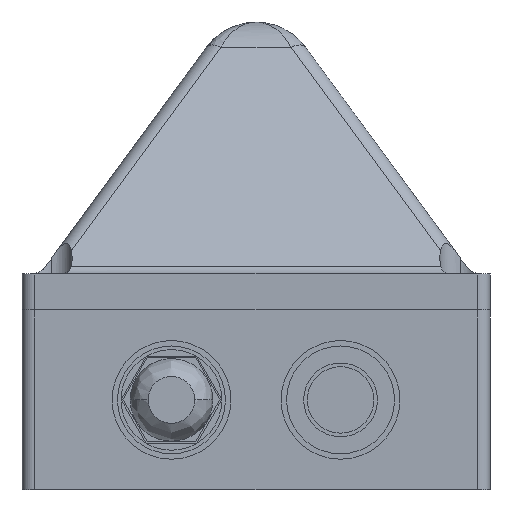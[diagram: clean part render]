
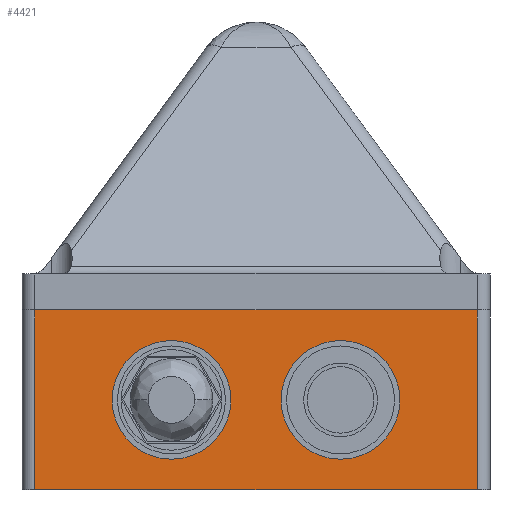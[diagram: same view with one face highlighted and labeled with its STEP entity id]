
A CAD part, front view. The second image highlights one B-rep face of the part: STEP entity #4421.
In plain terms, the highlighted planar face has unit normal (0, -1, 0).
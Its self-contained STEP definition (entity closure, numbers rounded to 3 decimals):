
#673 = CARTESIAN_POINT ( 'NONE',  ( 88.545, 0., 25. ) ) ;
#674 = AXIS2_PLACEMENT_3D ( 'NONE', #673, #739, #738 ) ;
#675 = CIRCLE ( 'NONE', #674, 16.5 ) ;
#738 = DIRECTION ( 'NONE',  ( -1., 0., 0. ) ) ;
#739 = DIRECTION ( 'NONE',  ( 0., 1., 0. ) ) ;
#740 = CARTESIAN_POINT ( 'NONE',  ( 105.045, 0., 25. ) ) ;
#741 = DIRECTION ( 'NONE',  ( -1., 0., 0. ) ) ;
#742 = DIRECTION ( 'NONE',  ( 0., 1., 0. ) ) ;
#743 = CARTESIAN_POINT ( 'NONE',  ( 88.545, 0., 25. ) ) ;
#744 = AXIS2_PLACEMENT_3D ( 'NONE', #743, #742, #741 ) ;
#745 = CIRCLE ( 'NONE', #744, 16.5 ) ;
#746 = CARTESIAN_POINT ( 'NONE',  ( 72.045, 0., 25. ) ) ;
#794 = CARTESIAN_POINT ( 'NONE',  ( 25.045, 0., 25. ) ) ;
#804 = DIRECTION ( 'NONE',  ( 0., 0., -1. ) ) ;
#805 = VECTOR ( 'NONE', #804, 1000. ) ;
#806 = CARTESIAN_POINT ( 'NONE',  ( 3.5, 0., 50. ) ) ;
#807 = LINE ( 'NONE', #806, #805 ) ;
#835 = CARTESIAN_POINT ( 'NONE',  ( 41.545, 0., 25. ) ) ;
#893 = CARTESIAN_POINT ( 'NONE',  ( 58.045, 0., 25. ) ) ;
#894 = DIRECTION ( 'NONE',  ( -1., 0., 0. ) ) ;
#895 = DIRECTION ( 'NONE',  ( 0., 1., 0. ) ) ;
#896 = AXIS2_PLACEMENT_3D ( 'NONE', #835, #895, #894 ) ;
#897 = CIRCLE ( 'NONE', #896, 16.5 ) ;
#898 = DIRECTION ( 'NONE',  ( -1., 0., 0. ) ) ;
#899 = DIRECTION ( 'NONE',  ( 0., 1., 0. ) ) ;
#900 = CARTESIAN_POINT ( 'NONE',  ( 41.545, 0., 25. ) ) ;
#901 = AXIS2_PLACEMENT_3D ( 'NONE', #900, #899, #898 ) ;
#902 = CIRCLE ( 'NONE', #901, 16.5 ) ;
#903 = DIRECTION ( 'NONE',  ( 0., 0., -1. ) ) ;
#904 = VECTOR ( 'NONE', #903, 1000. ) ;
#905 = CARTESIAN_POINT ( 'NONE',  ( 126.59, 0., 50. ) ) ;
#906 = LINE ( 'NONE', #905, #904 ) ;
#907 = CARTESIAN_POINT ( 'NONE',  ( 126.59, 0., 0. ) ) ;
#908 = DIRECTION ( 'NONE',  ( 1., 0., 0. ) ) ;
#909 = VECTOR ( 'NONE', #908, 1000. ) ;
#910 = CARTESIAN_POINT ( 'NONE',  ( 126.59, 0., 0. ) ) ;
#911 = LINE ( 'NONE', #910, #909 ) ;
#912 = DIRECTION ( 'NONE',  ( 1., 0., 0. ) ) ;
#913 = DIRECTION ( 'NONE',  ( 0., -1., 0. ) ) ;
#914 = CARTESIAN_POINT ( 'NONE',  ( 3.5, 0., 50. ) ) ;
#915 = AXIS2_PLACEMENT_3D ( 'NONE', #914, #913, #912 ) ;
#916 = PLANE ( 'NONE',  #915 ) ;
#917 = FACE_BOUND ( 'NONE', #4432, .T. ) ;
#918 = FACE_BOUND ( 'NONE', #4429, .T. ) ;
#919 = FACE_OUTER_BOUND ( 'NONE', #4367, .T. ) ;
#952 = CARTESIAN_POINT ( 'NONE',  ( 3.5, 0., 0. ) ) ;
#1105 = CARTESIAN_POINT ( 'NONE',  ( 3.5, 0., 50. ) ) ;
#1143 = LINE ( 'NONE', #1199, #1198 ) ;
#1196 = CARTESIAN_POINT ( 'NONE',  ( 126.59, 0., 50. ) ) ;
#1197 = DIRECTION ( 'NONE',  ( -1., 0., 0. ) ) ;
#1198 = VECTOR ( 'NONE', #1197, 1000. ) ;
#1199 = CARTESIAN_POINT ( 'NONE',  ( 3.5, 0., 50. ) ) ;
#4283 = EDGE_CURVE ( 'NONE', #4312, #4315, #675, .T. ) ;
#4312 = VERTEX_POINT ( 'NONE', #746 ) ;
#4314 = EDGE_CURVE ( 'NONE', #4315, #4312, #745, .T. ) ;
#4315 = VERTEX_POINT ( 'NONE', #740 ) ;
#4330 = VERTEX_POINT ( 'NONE', #794 ) ;
#4366 = EDGE_CURVE ( 'NONE', #4555, #4442, #807, .T. ) ;
#4367 = EDGE_LOOP ( 'NONE', ( #4422, #4423, #4424, #4427 ) ) ;
#4395 = EDGE_CURVE ( 'NONE', #4330, #4398, #902, .T. ) ;
#4397 = EDGE_CURVE ( 'NONE', #4398, #4330, #897, .T. ) ;
#4398 = VERTEX_POINT ( 'NONE', #893 ) ;
#4409 = ORIENTED_EDGE ( 'NONE', *, *, #4314, .T. ) ;
#4410 = ORIENTED_EDGE ( 'NONE', *, *, #4283, .T. ) ;
#4421 = ADVANCED_FACE ( 'NONE', ( #919, #918, #917 ), #916, .T. ) ;
#4422 = ORIENTED_EDGE ( 'NONE', *, *, #4604, .T. ) ;
#4423 = ORIENTED_EDGE ( 'NONE', *, *, #4366, .T. ) ;
#4424 = ORIENTED_EDGE ( 'NONE', *, *, #4425, .T. ) ;
#4425 = EDGE_CURVE ( 'NONE', #4442, #4426, #911, .T. ) ;
#4426 = VERTEX_POINT ( 'NONE', #907 ) ;
#4427 = ORIENTED_EDGE ( 'NONE', *, *, #4428, .F. ) ;
#4428 = EDGE_CURVE ( 'NONE', #4605, #4426, #906, .T. ) ;
#4429 = EDGE_LOOP ( 'NONE', ( #4430, #4431 ) ) ;
#4430 = ORIENTED_EDGE ( 'NONE', *, *, #4397, .T. ) ;
#4431 = ORIENTED_EDGE ( 'NONE', *, *, #4395, .T. ) ;
#4432 = EDGE_LOOP ( 'NONE', ( #4409, #4410 ) ) ;
#4442 = VERTEX_POINT ( 'NONE', #952 ) ;
#4555 = VERTEX_POINT ( 'NONE', #1105 ) ;
#4604 = EDGE_CURVE ( 'NONE', #4605, #4555, #1143, .T. ) ;
#4605 = VERTEX_POINT ( 'NONE', #1196 ) ;
